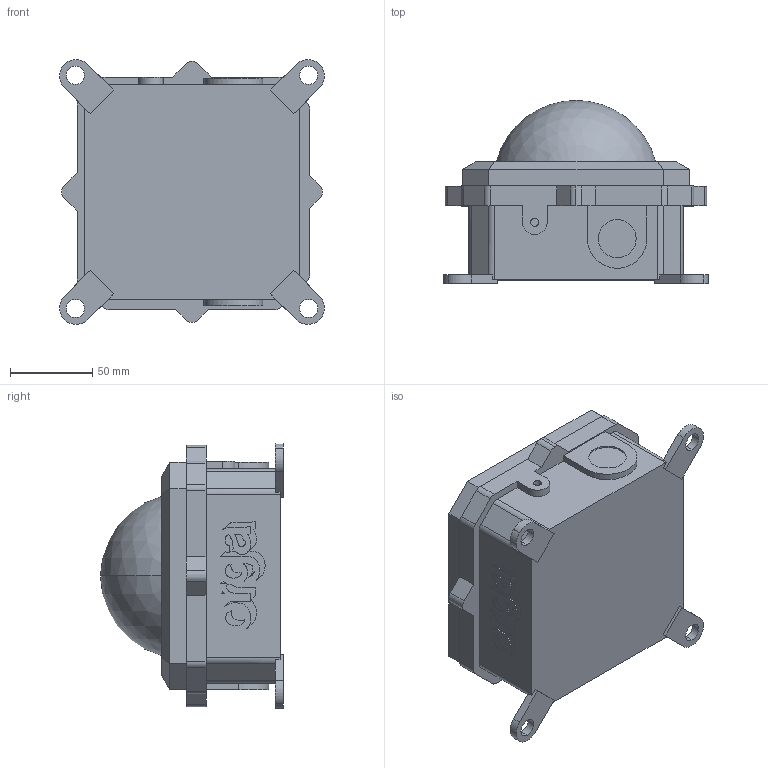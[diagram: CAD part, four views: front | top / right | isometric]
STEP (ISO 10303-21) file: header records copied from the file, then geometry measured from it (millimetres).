
FILE_DESCRIPTION (( 'STEP AP203' ), '1' );
FILE_NAME ('L85EX-x-xx-xxx BLOCK.step', '2013-06-20T08:59:27', ( 'admin2' ), ( '' ), 'SwSTEP 2.0', 'SolidWorks 2012', '' );
FILE_SCHEMA (( 'CONFIG_CONTROL_DESIGN' ));
Length unit declared in the file: millimetre
Products named in the file (1): L85EX-x-xx-xxx BLOCK
Bounding box: 160.72 x 111 x 160.76 mm (x, y, z)
Volume: 1429337.8 mm3; surface area: 84497.7 mm2
Topology: 1 solids, 1 shells, 209 faces, 566 edges, 375 vertices
Faces by surface type: plane 123, cylinder 54, bspline 30, sphere 2
Entity records: 7437 total; most frequent: CARTESIAN_POINT 2161, ORIENTED_EDGE 1132, DIRECTION 986, EDGE_CURVE 566, LINE 386, VECTOR 386, VERTEX_POINT 375, AXIS2_PLACEMENT_3D 300
